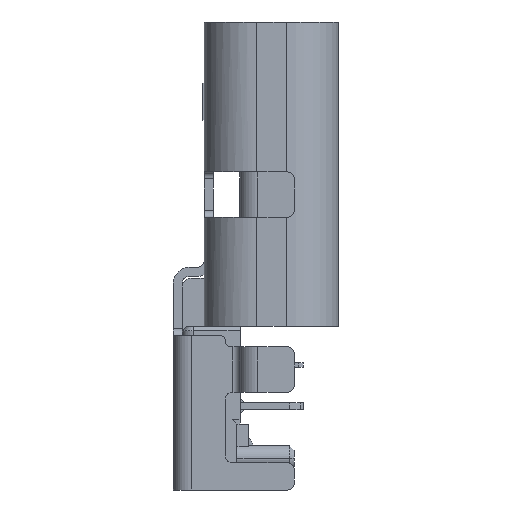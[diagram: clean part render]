
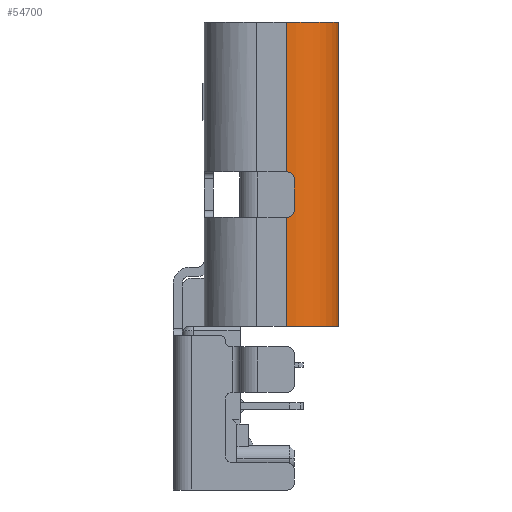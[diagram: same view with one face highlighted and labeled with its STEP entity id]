
A CAD part, left-side view. The second image highlights one B-rep face of the part: STEP entity #54700.
In plain terms, the highlighted cylindrical face has radius 1.15 mm (diameter 2.3 mm), a partial arc.
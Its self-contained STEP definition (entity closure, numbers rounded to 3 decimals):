
#386 = ORIENTED_EDGE ( 'NONE', *, *, #4541, .F. ) ;
#4541 = EDGE_CURVE ( 'NONE', #8657, #36434, #44549, .T. ) ;
#4683 = DIRECTION ( 'NONE',  ( 0., 0., 1. ) ) ;
#5211 = DIRECTION ( 'NONE',  ( 0., 0., 1. ) ) ;
#6769 = EDGE_LOOP ( 'NONE', ( #38444, #31536, #386, #15110 ) ) ;
#7102 = CIRCLE ( 'NONE', #38724, 1.15 ) ;
#8657 = VERTEX_POINT ( 'NONE', #11245 ) ;
#11245 = CARTESIAN_POINT ( 'NONE',  ( -4.375, -0.33, -1.7 ) ) ;
#12780 = CARTESIAN_POINT ( 'NONE',  ( -3.225, -1.48, 5. ) ) ;
#13992 = DIRECTION ( 'NONE',  ( 0., 0., -1. ) ) ;
#15110 = ORIENTED_EDGE ( 'NONE', *, *, #32233, .T. ) ;
#16480 = DIRECTION ( 'NONE',  ( 1., 0., 0. ) ) ;
#17685 = LINE ( 'NONE', #26183, #17693 ) ;
#17693 = VECTOR ( 'NONE', #13992, 1000. ) ;
#21337 = CIRCLE ( 'NONE', #55679, 1.15 ) ;
#21579 = CARTESIAN_POINT ( 'NONE',  ( -3.225, -0.33, -1.834 ) ) ;
#22732 = EDGE_CURVE ( 'NONE', #36434, #53552, #7102, .T. ) ;
#26183 = CARTESIAN_POINT ( 'NONE',  ( -3.225, -1.48, 5. ) ) ;
#29433 = CARTESIAN_POINT ( 'NONE',  ( -3.225, -1.48, -1.7 ) ) ;
#31536 = ORIENTED_EDGE ( 'NONE', *, *, #22732, .F. ) ;
#32233 = EDGE_CURVE ( 'NONE', #8657, #38573, #21337, .T. ) ;
#32274 = EDGE_CURVE ( 'NONE', #53552, #38573, #17685, .T. ) ;
#34089 = CARTESIAN_POINT ( 'NONE',  ( -4.375, -0.33, 5. ) ) ;
#34585 = CYLINDRICAL_SURFACE ( 'NONE', #51235, 1.15 ) ;
#36434 = VERTEX_POINT ( 'NONE', #34089 ) ;
#37992 = DIRECTION ( 'NONE',  ( 0., 0., 1. ) ) ;
#38444 = ORIENTED_EDGE ( 'NONE', *, *, #32274, .F. ) ;
#38573 = VERTEX_POINT ( 'NONE', #29433 ) ;
#38724 = AXIS2_PLACEMENT_3D ( 'NONE', #43421, #5211, #51914 ) ;
#39480 = CARTESIAN_POINT ( 'NONE',  ( -3.225, -0.33, -1.7 ) ) ;
#41419 = DIRECTION ( 'NONE',  ( 0., 0., 1. ) ) ;
#43421 = CARTESIAN_POINT ( 'NONE',  ( -3.225, -0.33, 5. ) ) ;
#44280 = DIRECTION ( 'NONE',  ( -1., 0., 0. ) ) ;
#44549 = LINE ( 'NONE', #54166, #55837 ) ;
#51235 = AXIS2_PLACEMENT_3D ( 'NONE', #21579, #37992, #16480 ) ;
#51576 = FACE_OUTER_BOUND ( 'NONE', #6769, .T. ) ;
#51914 = DIRECTION ( 'NONE',  ( -1., 0., 0. ) ) ;
#53552 = VERTEX_POINT ( 'NONE', #12780 ) ;
#54166 = CARTESIAN_POINT ( 'NONE',  ( -4.375, -0.33, -1.7 ) ) ;
#54700 = ADVANCED_FACE ( 'NONE', ( #51576 ), #34585, .T. ) ;
#55679 = AXIS2_PLACEMENT_3D ( 'NONE', #39480, #4683, #44280 ) ;
#55837 = VECTOR ( 'NONE', #41419, 1000. ) ;
